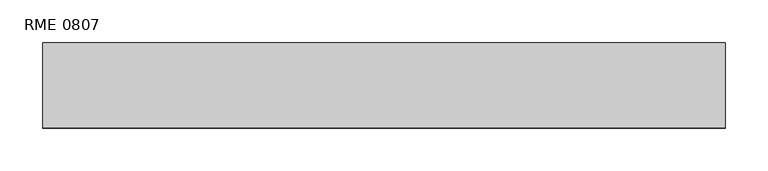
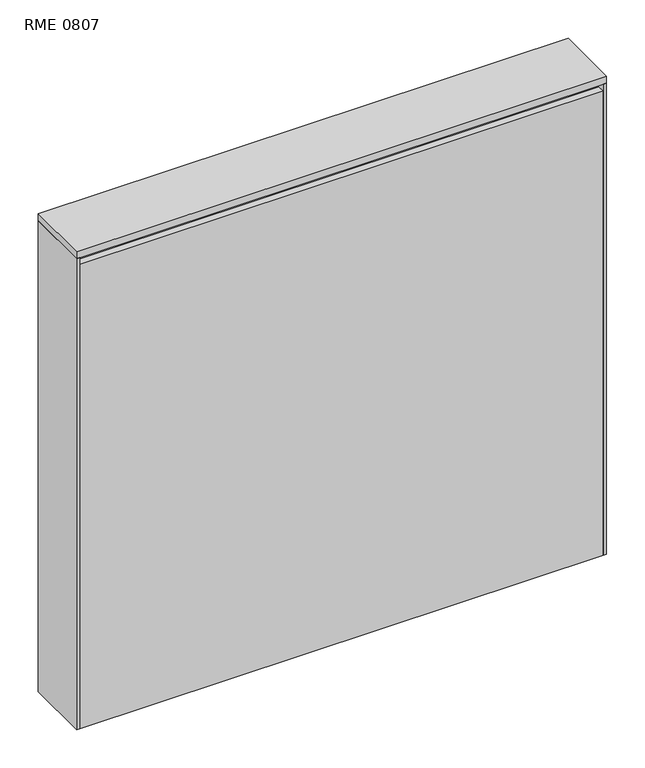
"""IFC4 building model written with IfcOpenShell, lengths in millimetres: furniture geometry, Mobiliário_MobiliáriodeEscritório_LinhaReasons_PainelEmpilhável762mm-Melamina_Marelli : RME 0807."""

from ifc_helpers import new_model, si_unit, frame, origin, origin_with_axes, place, context, project, spatial, polyline, outline, extrude, source, transform, mapped, element, save


def rme_0807_42b6b41e(model_context):
    return source(origin(), model_context, "Body", "SweptSolid", [
        extrude(outline(polyline([(795.0, 100.0), (800.0, 100.0), (800.0, 0.0), (795.0, 0.0), (795.0, 100.0)])), origin_with_axes(), (0.0, 0.0, 1.0), 751.0),
        extrude(outline(polyline([(5.0, 11.0), (5.0, 89.0), (795.0, 89.0), (795.0, 11.0), (5.0, 11.0)])), origin_with_axes(), (0.0, 0.0, 1.0), 751.0),
        extrude(outline(polyline([(0.0, 100.0), (5.0, 100.0), (5.0, 0.0), (0.0, 0.0), (0.0, 100.0)])), origin_with_axes(), (0.0, 0.0, 1.0), 751.0),
        extrude(outline(polyline([(795.0, 11.0), (795.0, 0.0), (5.0, 0.0), (5.0, 11.0), (795.0, 11.0)])), origin_with_axes(), (0.0, 0.0, 1.0), 740.5),
        extrude(outline(polyline([(795.0, 100.0), (795.0, 89.0), (5.0, 89.0), (5.0, 100.0), (795.0, 100.0)])), origin_with_axes(), (0.0, 0.0, 1.0), 740.5),
        extrude(outline(polyline([(800.0, 100.0), (800.0, 0.0), (0.0, 0.0), (0.0, 100.0), (800.0, 100.0)])), frame((0.0, 0.0, 751.0), z_axis=(0.0, 0.0, 1.0), x_axis=(1.0, 0.0, 0.0)), (0.0, 0.0, 1.0), 11.0),
    ])


if __name__ == "__main__":
    model = new_model("IFC4")
    model_context = context("Model", 3, world=origin())
    ifc_project = project(units=[si_unit("LENGTHUNIT", "METRE", prefix="MILLI")], contexts=[model_context])
    site = spatial("IfcSite", under=ifc_project)
    building = spatial("IfcBuilding", under=site)
    placement = place(None, origin())
    rme_0807_shape = rme_0807_42b6b41e(model_context)
    element("IfcFurniture", 1, ObjectType="Mobiliário_MobiliáriodeEscritório_LinhaReasons_PainelEmpilhável762mm-Melamina_Marelli : RME 0807", at=placement, inside=building, context=model_context, shape_type="MappedRepresentation", body=[
        mapped(rme_0807_shape, transform((0.0, 0.0, 0.0), x_axis=(1.0, 0.0, 0.0), y_axis=(0.0, 1.0, 0.0), z_axis=(0.0, 0.0, 1.0))),
    ])
    save(model, "model.ifc")
